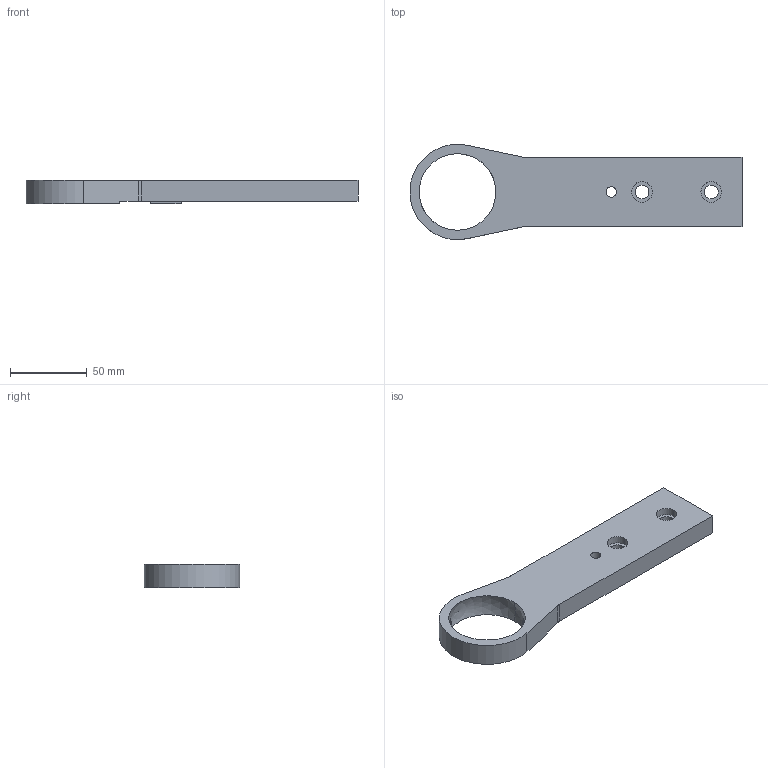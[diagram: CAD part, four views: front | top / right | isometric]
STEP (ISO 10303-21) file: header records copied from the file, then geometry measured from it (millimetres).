
FILE_DESCRIPTION (( 'STEP AP203' ), '1' );
FILE_NAME ('627.006.002.STEP', '2013-01-29T12:40:52', ( 'Alusic' ), ( 'Alusic' ), 'SwSTEP 2.0', 'SolidWorks 2011', '' );
FILE_SCHEMA (( 'CONFIG_CONTROL_DESIGN' ));
Length unit declared in the file: millimetre
Products named in the file (1): 627.006.002
Bounding box: 215.89 x 61.95 x 15 mm (x, y, z)
Volume: 108246.9 mm3; surface area: 27247.9 mm2
Topology: 1 solids, 1 shells, 45 faces, 123 edges, 81 vertices
Faces by surface type: plane 24, cylinder 18, sphere 3
Entity records: 1484 total; most frequent: DIRECTION 257, CARTESIAN_POINT 240, ORIENTED_EDGE 234, EDGE_CURVE 117, AXIS2_PLACEMENT_3D 95, VERTEX_POINT 78, LINE 67, VECTOR 67
